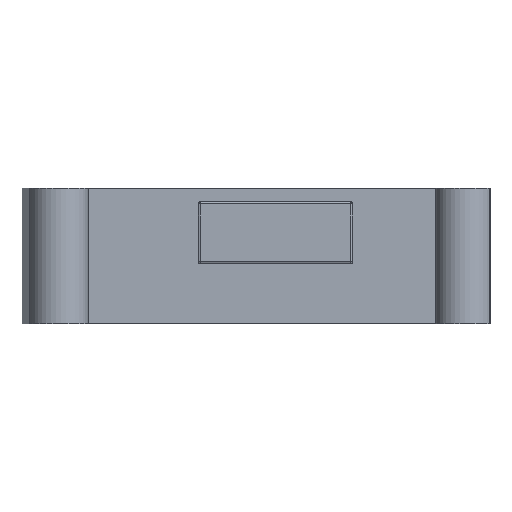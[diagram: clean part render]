
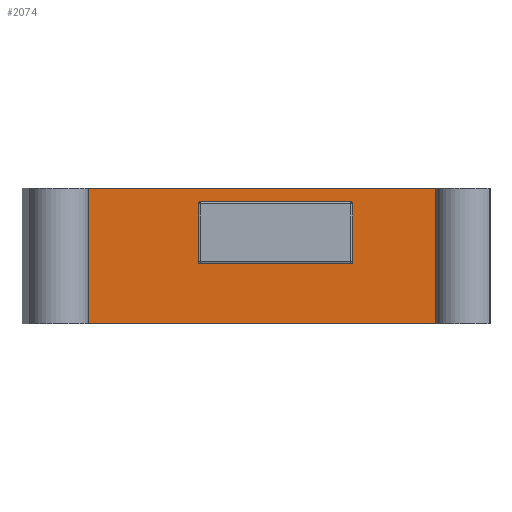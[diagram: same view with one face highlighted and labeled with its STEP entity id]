
A CAD part, left-side view. The second image highlights one B-rep face of the part: STEP entity #2074.
In plain terms, the highlighted planar face has unit normal (-1, 0, 0).
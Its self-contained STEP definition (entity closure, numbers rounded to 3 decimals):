
#860 = CARTESIAN_POINT ( 'NONE',  ( -42.4, 44.727, 0. ) ) ;
#1981 = VERTEX_POINT ( 'NONE', #20993 ) ;
#2074 = ADVANCED_FACE ( 'NONE', ( #3979 ), #14948, .T. ) ;
#3257 = EDGE_LOOP ( 'NONE', ( #6769, #6115, #11833, #11588 ) ) ;
#3806 = VECTOR ( 'NONE', #6682, 1000. ) ;
#3979 = FACE_OUTER_BOUND ( 'NONE', #3257, .T. ) ;
#6115 = ORIENTED_EDGE ( 'NONE', *, *, #13417, .F. ) ;
#6600 = VECTOR ( 'NONE', #25569, 1000. ) ;
#6682 = DIRECTION ( 'NONE',  ( 0., 0., 1. ) ) ;
#6769 = ORIENTED_EDGE ( 'NONE', *, *, #7429, .F. ) ;
#7429 = EDGE_CURVE ( 'NONE', #8383, #24906, #16473, .T. ) ;
#8383 = VERTEX_POINT ( 'NONE', #860 ) ;
#8551 = AXIS2_PLACEMENT_3D ( 'NONE', #19219, #21617, #21426 ) ;
#9951 = VECTOR ( 'NONE', #21709, 1000. ) ;
#11588 = ORIENTED_EDGE ( 'NONE', *, *, #14615, .T. ) ;
#11833 = ORIENTED_EDGE ( 'NONE', *, *, #18112, .T. ) ;
#12353 = CARTESIAN_POINT ( 'NONE',  ( -42.4, 44.727, -35. ) ) ;
#13417 = EDGE_CURVE ( 'NONE', #1981, #8383, #20073, .T. ) ;
#13576 = CARTESIAN_POINT ( 'NONE',  ( -42.4, -45.04, 0. ) ) ;
#14386 = VECTOR ( 'NONE', #22606, 1000. ) ;
#14615 = EDGE_CURVE ( 'NONE', #26769, #24906, #17613, .T. ) ;
#14948 = PLANE ( 'NONE',  #8551 ) ;
#15050 = CARTESIAN_POINT ( 'NONE',  ( -42.4, 44.727, -35. ) ) ;
#15569 = CARTESIAN_POINT ( 'NONE',  ( -42.4, -45.04, -35. ) ) ;
#16473 = LINE ( 'NONE', #27048, #14386 ) ;
#17613 = LINE ( 'NONE', #15569, #3806 ) ;
#18112 = EDGE_CURVE ( 'NONE', #1981, #26769, #22010, .T. ) ;
#19219 = CARTESIAN_POINT ( 'NONE',  ( -42.4, 44.727, -35. ) ) ;
#20073 = LINE ( 'NONE', #12353, #6600 ) ;
#20343 = CARTESIAN_POINT ( 'NONE',  ( -42.4, -45.04, -35. ) ) ;
#20993 = CARTESIAN_POINT ( 'NONE',  ( -42.4, 44.727, -35. ) ) ;
#21426 = DIRECTION ( 'NONE',  ( 0., 0., 1. ) ) ;
#21617 = DIRECTION ( 'NONE',  ( -1., 0., 0. ) ) ;
#21709 = DIRECTION ( 'NONE',  ( 0., -1., 0. ) ) ;
#22010 = LINE ( 'NONE', #15050, #9951 ) ;
#22606 = DIRECTION ( 'NONE',  ( 0., -1., 0. ) ) ;
#24906 = VERTEX_POINT ( 'NONE', #13576 ) ;
#25569 = DIRECTION ( 'NONE',  ( 0., 0., 1. ) ) ;
#26769 = VERTEX_POINT ( 'NONE', #20343 ) ;
#27048 = CARTESIAN_POINT ( 'NONE',  ( -42.4, 44.727, 0. ) ) ;
